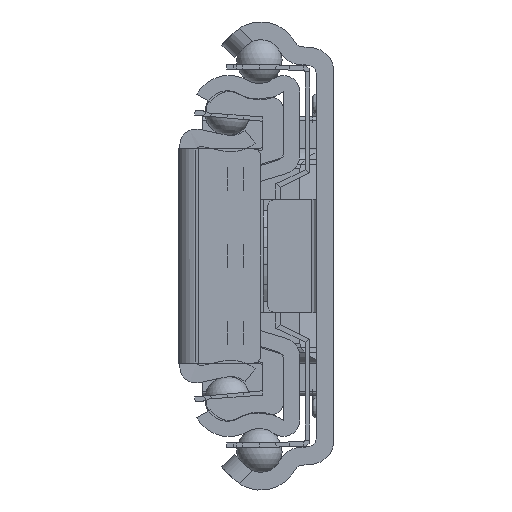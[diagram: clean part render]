
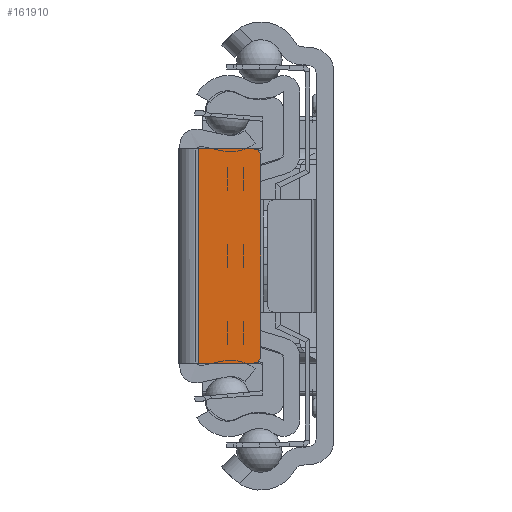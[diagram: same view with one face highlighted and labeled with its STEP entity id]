
A CAD part, left-side view. The second image highlights one B-rep face of the part: STEP entity #161910.
In plain terms, the highlighted planar face has unit normal (-1, 0, 0).
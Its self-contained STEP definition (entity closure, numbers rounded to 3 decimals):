
#156635=DIRECTION('',(0.,-1.,0.));
#156636=VECTOR('',#156635,6.7);
#156637=CARTESIAN_POINT('',(-0.5,-2.3,-13.25));
#156638=LINE('',#156637,#156636);
#157605=DIRECTION('',(0.,0.,1.));
#157606=VECTOR('',#157605,24.5);
#157607=CARTESIAN_POINT('',(-0.5,-10.,-12.25));
#157608=LINE('',#157607,#157606);
#157609=CARTESIAN_POINT('',(-0.5,-9.,12.25));
#157610=DIRECTION('',(-1.,0.,0.));
#157611=DIRECTION('',(0.,-1.,0.));
#157612=AXIS2_PLACEMENT_3D('',#157609,#157610,#157611);
#157614=CARTESIAN_POINT('',(-0.5,-9.,-12.25));
#157615=DIRECTION('',(-1.,0.,0.));
#157616=DIRECTION('',(0.,0.,-1.));
#157617=AXIS2_PLACEMENT_3D('',#157614,#157615,#157616);
#157619=DIRECTION('',(0.,0.,1.));
#157620=VECTOR('',#157619,26.5);
#157621=CARTESIAN_POINT('',(-0.5,-2.3,-13.25));
#157622=LINE('',#157621,#157620);
#157637=DIRECTION('',(0.,-1.,0.));
#157638=VECTOR('',#157637,6.7);
#157639=CARTESIAN_POINT('',(-0.5,-2.3,13.25));
#157640=LINE('',#157639,#157638);
#160197=CARTESIAN_POINT('',(-0.5,-2.3,-13.25));
#160198=CARTESIAN_POINT('',(-0.5,-2.3,13.25));
#160199=VERTEX_POINT('',#160197);
#160200=VERTEX_POINT('',#160198);
#160213=CARTESIAN_POINT('',(-0.5,-10.,12.25));
#160214=VERTEX_POINT('',#160213);
#160215=CARTESIAN_POINT('',(-0.5,-9.,13.25));
#160216=VERTEX_POINT('',#160215);
#160217=CARTESIAN_POINT('',(-0.5,-9.,-13.25));
#160218=CARTESIAN_POINT('',(-0.5,-10.,-12.25));
#160219=VERTEX_POINT('',#160217);
#160220=VERTEX_POINT('',#160218);
#161896=CARTESIAN_POINT('',(-0.5,-2.3,-13.25));
#161897=DIRECTION('',(-1.,0.,0.));
#161898=DIRECTION('',(0.,-1.,0.));
#161899=AXIS2_PLACEMENT_3D('',#161896,#161897,#161898);
#161900=PLANE('',#161899);
#161901=ORIENTED_EDGE('',*,*,#161862,.F.);
#161902=ORIENTED_EDGE('',*,*,#161878,.F.);
#161903=ORIENTED_EDGE('',*,*,#161888,.F.);
#161904=ORIENTED_EDGE('',*,*,#161262,.F.);
#161905=ORIENTED_EDGE('',*,*,#161279,.T.);
#161907=ORIENTED_EDGE('',*,*,#161906,.T.);
#161908=EDGE_LOOP('',(#161901,#161902,#161903,#161904,#161905,#161907));
#161909=FACE_OUTER_BOUND('',#161908,.F.);
#157613=CIRCLE('',#157612,1.);
#157618=CIRCLE('',#157617,1.);
#161262=EDGE_CURVE('',#160199,#160219,#156638,.T.);
#161279=EDGE_CURVE('',#160199,#160200,#157622,.T.);
#161862=EDGE_CURVE('',#160214,#160216,#157613,.T.);
#161878=EDGE_CURVE('',#160220,#160214,#157608,.T.);
#161888=EDGE_CURVE('',#160219,#160220,#157618,.T.);
#161906=EDGE_CURVE('',#160200,#160216,#157640,.T.);
#161910=ADVANCED_FACE('',(#161909),#161900,.T.);
